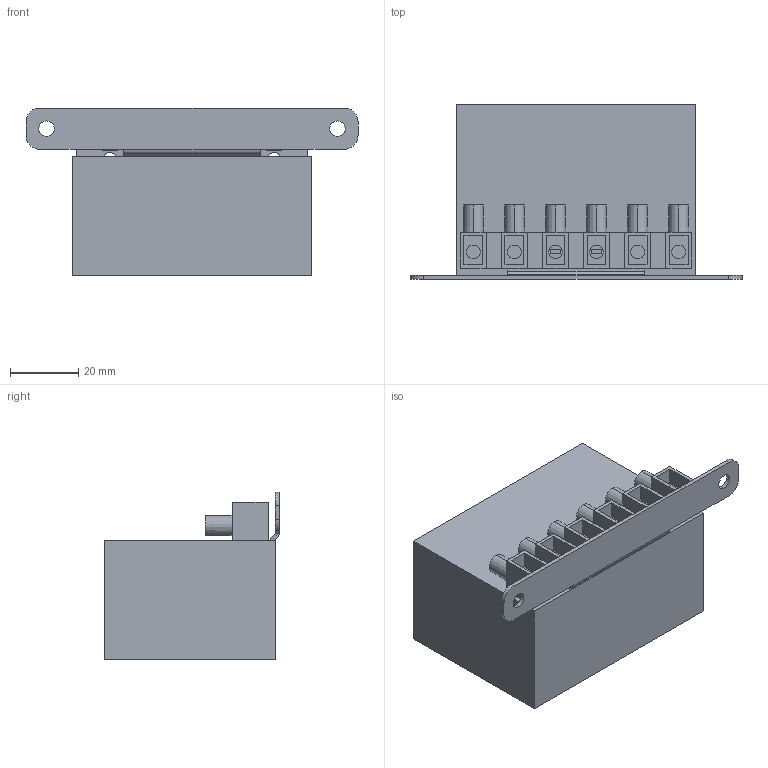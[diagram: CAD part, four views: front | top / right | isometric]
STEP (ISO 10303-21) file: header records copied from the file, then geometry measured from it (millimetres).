
FILE_DESCRIPTION (( 'STEP AP214' ), '1' );
FILE_NAME ('ABF06-10.STEP', '2015-03-18T11:21:13', ( '' ), ( '' ), 'SwSTEP 2.0', 'SolidWorks 2014', '' );
FILE_SCHEMA (( 'AUTOMOTIVE_DESIGN' ));
Length unit declared in the file: millimetre
Products named in the file (4): TER656; BOX514_BOX514 POTTED; MNT23; ABF06-10
Assembly tree (3 placements, depth 2):
  ABF06-10
    MNT23
    BOX514_BOX514 POTTED
    TER656
Bounding box: 97 x 51 x 49 mm (x, y, z)
Volume: 134089.6 mm3; surface area: 32337.4 mm2
Topology: 3 solids, 3 shells, 266 faces, 688 edges, 440 vertices
Faces by surface type: plane 180, cylinder 62, cone 24
Entity records: 8710 total; most frequent: DIRECTION 1428, CARTESIAN_POINT 1400, ORIENTED_EDGE 1376, EDGE_CURVE 688, VECTOR 492, LINE 492, AXIS2_PLACEMENT_3D 468, VERTEX_POINT 440
